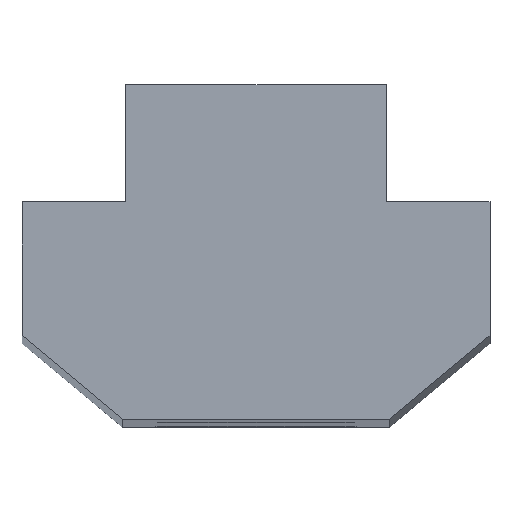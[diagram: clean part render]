
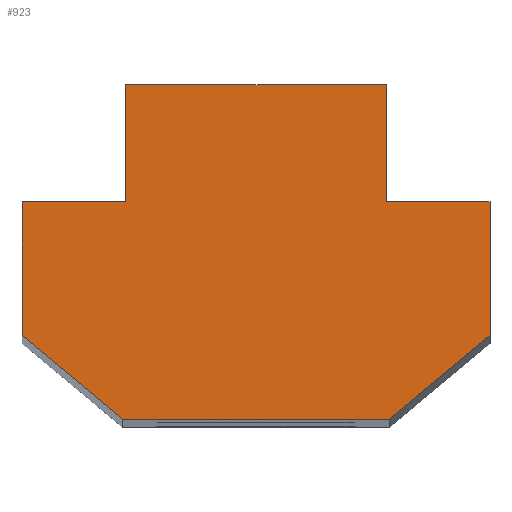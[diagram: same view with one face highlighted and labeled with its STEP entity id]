
A CAD part, top view. The second image highlights one B-rep face of the part: STEP entity #923.
In plain terms, the highlighted planar face has unit normal (0, 0, 1).
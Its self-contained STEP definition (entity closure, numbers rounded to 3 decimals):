
#54 = ORIENTED_EDGE ( 'NONE', *, *, #88, .T. ) ;
#88 = EDGE_CURVE ( 'NONE', #6195, #2786, #876, .T. ) ;
#225 = LINE ( 'NONE', #8102, #993 ) ;
#249 = LINE ( 'NONE', #8126, #8064 ) ;
#385 = VERTEX_POINT ( 'NONE', #2269 ) ;
#603 = LINE ( 'NONE', #8466, #1678 ) ;
#631 = VERTEX_POINT ( 'NONE', #2385 ) ;
#804 = LINE ( 'NONE', #8653, #1957 ) ;
#876 = LINE ( 'NONE', #8717, #6240 ) ;
#923 = ADVANCED_FACE ( 'NONE', ( #2062 ), #4150, .T. ) ;
#993 = VECTOR ( 'NONE', #7227, 1000. ) ;
#1051 = EDGE_CURVE ( 'NONE', #2786, #385, #804, .T. ) ;
#1092 = VECTOR ( 'NONE', #4617, 1000. ) ;
#1176 = CARTESIAN_POINT ( 'NONE',  ( -3.9, -33.067, 70. ) ) ;
#1190 = EDGE_CURVE ( 'NONE', #7841, #6897, #3384, .T. ) ;
#1369 = EDGE_CURVE ( 'NONE', #6897, #6195, #6373, .T. ) ;
#1406 = DIRECTION ( 'NONE',  ( 1., 0., 0. ) ) ;
#1558 = DIRECTION ( 'NONE',  ( -1., 0., 0. ) ) ;
#1678 = VECTOR ( 'NONE', #7579, 1000. ) ;
#1888 = DIRECTION ( 'NONE',  ( -1., 0., 0. ) ) ;
#1957 = VECTOR ( 'NONE', #7767, 1000. ) ;
#2003 = EDGE_LOOP ( 'NONE', ( #5610, #6652, #7307, #4201, #8393, #7497, #4631, #6791, #7090, #54 ) ) ;
#2062 = FACE_OUTER_BOUND ( 'NONE', #2003, .T. ) ;
#2269 = CARTESIAN_POINT ( 'NONE',  ( -7., -37.067, 70. ) ) ;
#2301 = AXIS2_PLACEMENT_3D ( 'NONE', #3239, #2327, #1406 ) ;
#2327 = DIRECTION ( 'NONE',  ( 0., 0., 1. ) ) ;
#2385 = CARTESIAN_POINT ( 'NONE',  ( 4., -39.567, 70. ) ) ;
#2473 = CARTESIAN_POINT ( 'NONE',  ( -3.9, -29.567, 70. ) ) ;
#2567 = EDGE_CURVE ( 'NONE', #8506, #631, #6288, .T. ) ;
#2786 = VERTEX_POINT ( 'NONE', #6233 ) ;
#2800 = CARTESIAN_POINT ( 'NONE',  ( 3.9, -33.067, 70. ) ) ;
#2847 = EDGE_CURVE ( 'NONE', #631, #6436, #6945, .T. ) ;
#3093 = EDGE_CURVE ( 'NONE', #6436, #7910, #603, .T. ) ;
#3239 = CARTESIAN_POINT ( 'NONE',  ( -7., -39.567, 70. ) ) ;
#3360 = EDGE_CURVE ( 'NONE', #7910, #4521, #3725, .T. ) ;
#3384 = LINE ( 'NONE', #2473, #5383 ) ;
#3594 = VECTOR ( 'NONE', #5202, 1000. ) ;
#3618 = EDGE_CURVE ( 'NONE', #4521, #7841, #225, .T. ) ;
#3725 = LINE ( 'NONE', #2800, #5560 ) ;
#4082 = CARTESIAN_POINT ( 'NONE',  ( 3.9, -33.067, 70. ) ) ;
#4120 = CARTESIAN_POINT ( 'NONE',  ( -3.9, -29.567, 70. ) ) ;
#4150 = PLANE ( 'NONE',  #2301 ) ;
#4201 = ORIENTED_EDGE ( 'NONE', *, *, #2847, .T. ) ;
#4521 = VERTEX_POINT ( 'NONE', #4082 ) ;
#4525 = DIRECTION ( 'NONE',  ( 1., 0., 0. ) ) ;
#4617 = DIRECTION ( 'NONE',  ( 0., -1., 0. ) ) ;
#4631 = ORIENTED_EDGE ( 'NONE', *, *, #3618, .T. ) ;
#5202 = DIRECTION ( 'NONE',  ( 0.768, 0.64, 0. ) ) ;
#5233 = CARTESIAN_POINT ( 'NONE',  ( 7., -33.067, 70. ) ) ;
#5383 = VECTOR ( 'NONE', #1558, 1000. ) ;
#5409 = CARTESIAN_POINT ( 'NONE',  ( -4., -39.567, 70. ) ) ;
#5503 = CARTESIAN_POINT ( 'NONE',  ( -3.9, -29.567, 70. ) ) ;
#5560 = VECTOR ( 'NONE', #1888, 1000. ) ;
#5597 = CARTESIAN_POINT ( 'NONE',  ( 7., -37.067, 70. ) ) ;
#5610 = ORIENTED_EDGE ( 'NONE', *, *, #1051, .T. ) ;
#6074 = CARTESIAN_POINT ( 'NONE',  ( 4., -39.567, 70. ) ) ;
#6195 = VERTEX_POINT ( 'NONE', #1176 ) ;
#6197 = EDGE_CURVE ( 'NONE', #385, #8506, #249, .T. ) ;
#6233 = CARTESIAN_POINT ( 'NONE',  ( -7., -33.067, 70. ) ) ;
#6240 = VECTOR ( 'NONE', #7837, 1000. ) ;
#6288 = LINE ( 'NONE', #5409, #6666 ) ;
#6373 = LINE ( 'NONE', #5503, #1092 ) ;
#6436 = VERTEX_POINT ( 'NONE', #5597 ) ;
#6652 = ORIENTED_EDGE ( 'NONE', *, *, #6197, .T. ) ;
#6666 = VECTOR ( 'NONE', #4525, 1000. ) ;
#6791 = ORIENTED_EDGE ( 'NONE', *, *, #1190, .T. ) ;
#6897 = VERTEX_POINT ( 'NONE', #4120 ) ;
#6945 = LINE ( 'NONE', #6074, #3594 ) ;
#6972 = CARTESIAN_POINT ( 'NONE',  ( 3.9, -29.567, 70. ) ) ;
#7090 = ORIENTED_EDGE ( 'NONE', *, *, #1369, .T. ) ;
#7227 = DIRECTION ( 'NONE',  ( 0., 1., 0. ) ) ;
#7250 = DIRECTION ( 'NONE',  ( 0.768, -0.64, 0. ) ) ;
#7307 = ORIENTED_EDGE ( 'NONE', *, *, #2567, .T. ) ;
#7497 = ORIENTED_EDGE ( 'NONE', *, *, #3360, .T. ) ;
#7543 = CARTESIAN_POINT ( 'NONE',  ( -4., -39.567, 70. ) ) ;
#7579 = DIRECTION ( 'NONE',  ( 0., 1., 0. ) ) ;
#7767 = DIRECTION ( 'NONE',  ( 0., -1., 0. ) ) ;
#7837 = DIRECTION ( 'NONE',  ( -1., 0., 0. ) ) ;
#7841 = VERTEX_POINT ( 'NONE', #6972 ) ;
#7910 = VERTEX_POINT ( 'NONE', #5233 ) ;
#8064 = VECTOR ( 'NONE', #7250, 1000. ) ;
#8102 = CARTESIAN_POINT ( 'NONE',  ( 3.9, -29.567, 70. ) ) ;
#8126 = CARTESIAN_POINT ( 'NONE',  ( -7., -37.067, 70. ) ) ;
#8393 = ORIENTED_EDGE ( 'NONE', *, *, #3093, .T. ) ;
#8466 = CARTESIAN_POINT ( 'NONE',  ( 7., -33.067, 70. ) ) ;
#8506 = VERTEX_POINT ( 'NONE', #7543 ) ;
#8653 = CARTESIAN_POINT ( 'NONE',  ( -7., -33.067, 70. ) ) ;
#8717 = CARTESIAN_POINT ( 'NONE',  ( -7., -33.067, 70. ) ) ;
